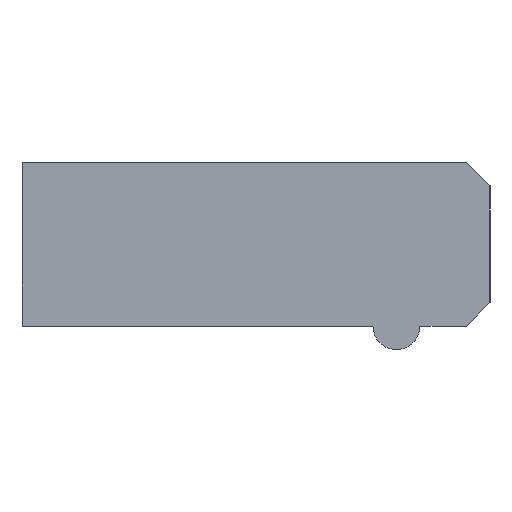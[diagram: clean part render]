
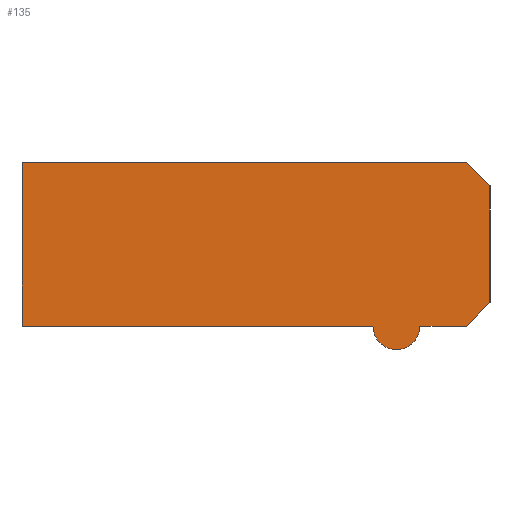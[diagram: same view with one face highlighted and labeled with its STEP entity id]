
A CAD part, left-side view. The second image highlights one B-rep face of the part: STEP entity #135.
In plain terms, the highlighted planar face has unit normal (-1, 0, 0).
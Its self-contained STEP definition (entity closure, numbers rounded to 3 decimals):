
#107 = EDGE_CURVE( '', #183, #123, #278, .T. );
#119 = VERTEX_POINT( '', #290 );
#123 = VERTEX_POINT( '', #294 );
#135 = ADVANCED_FACE( '', ( #307 ), #308, .F. );
#147 = VERTEX_POINT( '', #320 );
#149 = EDGE_CURVE( '', #181, #119, #322, .T. );
#153 = EDGE_CURVE( '', #215, #199, #327, .T. );
#159 = EDGE_CURVE( '', #119, #201, #334, .T. );
#181 = VERTEX_POINT( '', #358 );
#183 = VERTEX_POINT( '', #360 );
#195 = EDGE_CURVE( '', #123, #215, #376, .T. );
#199 = VERTEX_POINT( '', #380 );
#201 = VERTEX_POINT( '', #382 );
#215 = VERTEX_POINT( '', #398 );
#221 = EDGE_CURVE( '', #147, #181, #404, .T. );
#229 = EDGE_CURVE( '', #199, #147, #413, .T. );
#249 = EDGE_CURVE( '', #201, #183, #437, .T. );
#278 = LINE( '', #461, #462 );
#290 = CARTESIAN_POINT( '', ( -6., -19., 3.5 ) );
#294 = CARTESIAN_POINT( '', ( -6., -19., -3.5 ) );
#307 = FACE_OUTER_BOUND( '', #495, .T. );
#308 = PLANE( '', #496 );
#320 = CARTESIAN_POINT( '', ( -6., 0., -3.5 ) );
#322 = LINE( '', #516, #517 );
#327 = CIRCLE( '', #523, 1. );
#334 = LINE( '', #531, #532 );
#358 = CARTESIAN_POINT( '', ( -6., 0., 3.5 ) );
#360 = CARTESIAN_POINT( '', ( -6., -20., -2.5 ) );
#376 = LINE( '', #584, #585 );
#380 = CARTESIAN_POINT( '', ( -6., -15., -3.5 ) );
#382 = CARTESIAN_POINT( '', ( -6., -20., 2.5 ) );
#398 = CARTESIAN_POINT( '', ( -6., -17., -3.5 ) );
#404 = LINE( '', #624, #625 );
#413 = LINE( '', #639, #640 );
#437 = LINE( '', #673, #674 );
#461 = CARTESIAN_POINT( '', ( -6., -20., -2.5 ) );
#462 = VECTOR( '', #692, 1. );
#495 = EDGE_LOOP( '', ( #704, #705, #706, #707, #708, #709, #710, #711 ) );
#496 = AXIS2_PLACEMENT_3D( '', #712, #713, #714 );
#516 = CARTESIAN_POINT( '', ( -6., 0., 3.5 ) );
#517 = VECTOR( '', #725, 1. );
#523 = AXIS2_PLACEMENT_3D( '', #734, #735, #736 );
#531 = CARTESIAN_POINT( '', ( -6., -19., 3.5 ) );
#532 = VECTOR( '', #745, 1. );
#584 = CARTESIAN_POINT( '', ( -6., -19., -3.5 ) );
#585 = VECTOR( '', #802, 1. );
#624 = CARTESIAN_POINT( '', ( -6., 0., -3.5 ) );
#625 = VECTOR( '', #834, 1. );
#639 = CARTESIAN_POINT( '', ( -6., -15., -3.5 ) );
#640 = VECTOR( '', #843, 1. );
#673 = CARTESIAN_POINT( '', ( -6., -20., 2.5 ) );
#674 = VECTOR( '', #873, 1. );
#692 = DIRECTION( '', ( 0., 0.707, -0.707 ) );
#704 = ORIENTED_EDGE( '', *, *, #249, .F. );
#705 = ORIENTED_EDGE( '', *, *, #159, .F. );
#706 = ORIENTED_EDGE( '', *, *, #149, .F. );
#707 = ORIENTED_EDGE( '', *, *, #221, .F. );
#708 = ORIENTED_EDGE( '', *, *, #229, .F. );
#709 = ORIENTED_EDGE( '', *, *, #153, .F. );
#710 = ORIENTED_EDGE( '', *, *, #195, .F. );
#711 = ORIENTED_EDGE( '', *, *, #107, .F. );
#712 = CARTESIAN_POINT( '', ( -6., 0., 0. ) );
#713 = DIRECTION( '', ( 1., 0., 0. ) );
#714 = DIRECTION( '', ( 0., 0., -1. ) );
#725 = DIRECTION( '', ( 0., -1., 0. ) );
#734 = CARTESIAN_POINT( '', ( -6., -16., -3.5 ) );
#735 = DIRECTION( '', ( 1., 0., 0. ) );
#736 = DIRECTION( '', ( 0., -1., 0. ) );
#745 = DIRECTION( '', ( 0., -0.707, -0.707 ) );
#802 = DIRECTION( '', ( 0., 1., 0. ) );
#834 = DIRECTION( '', ( 0., 0., 1. ) );
#843 = DIRECTION( '', ( 0., 1., 0. ) );
#873 = DIRECTION( '', ( 0., 0., -1. ) );
